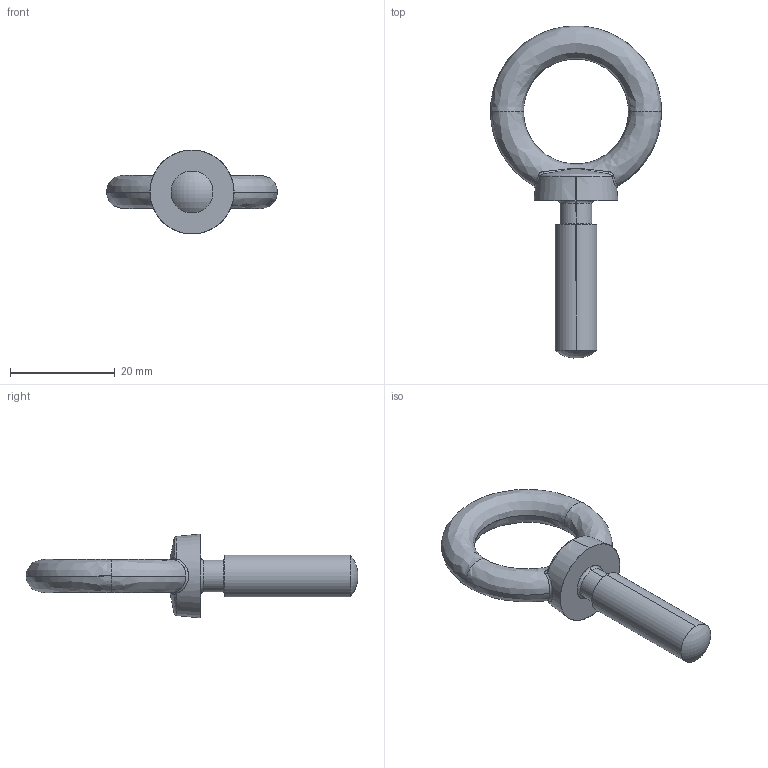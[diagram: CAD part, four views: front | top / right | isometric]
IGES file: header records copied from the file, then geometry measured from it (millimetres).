
Start section: SolidWorks IGES FILE using analytic representation for surfaces
Global section: file name: \\Ls-wvld1d\share\シブタニ\3D設計\ネジ・アイボルト\EB-901(S)-0830\EB-901(S)-0830.IGS,41HSolidWorks; native system: 2003 by SolidWorks Corporation; preprocessor: Version 5.3; author: user; date: 130703.173103; units: millimetre
Bounding box: 32.6 x 63.25 x 16 mm (x, y, z)
Surface area: 2698.9 mm2 (no closed solid volume)
Topology: 0 solids, 0 shells, 31 faces, 433 edges, 433 vertices
Faces by surface type: bspline 21, revolution 10
